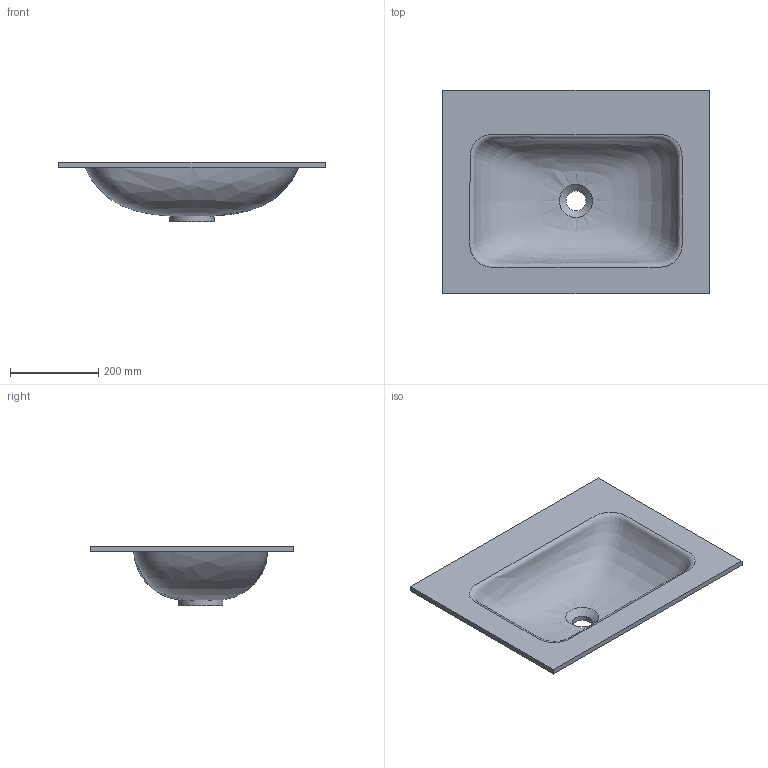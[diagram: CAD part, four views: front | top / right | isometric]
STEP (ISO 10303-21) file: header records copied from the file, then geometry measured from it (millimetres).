
FILE_DESCRIPTION(/* description */ (''),/* implementation_level */ '2;1');
FILE_NAME(/* name */ 'KKR-FGE01.stp',/* time_stamp */ '2025-10-25T10:45:05+08:00',/* author */ (''),/* organization */ (''),/* preprocessor_version */ 'ST-DEVELOPER v20',/* originating_system */ 'SIEMENS PLM Software NX2412.4001',/* authorisation */ '');
FILE_SCHEMA (('AUTOMOTIVE_DESIGN { 1 0 10303 214 3 1 1 1 }'));
Length unit declared in the file: millimetre
Products named in the file (1): KKR-FGE01
Bounding box: 602 x 460 x 135 mm (x, y, z)
Volume: 4224318.8 mm3; surface area: 714548.6 mm2
Topology: 1 solids, 1 shells, 12 faces, 26 edges, 17 vertices
Faces by surface type: plane 7, bspline 2, cylinder 2, cone 1
Full cylindrical faces by diameter (mm): 45 x1, 100 x1
Entity records: 18121 total; most frequent: CARTESIAN_POINT 17872, DIRECTION 40, ORIENTED_EDGE 38, EDGE_LOOP 20, EDGE_CURVE 19, FACE_BOUND 16, VERTEX_POINT 15, AXIS2_PLACEMENT_3D 14
